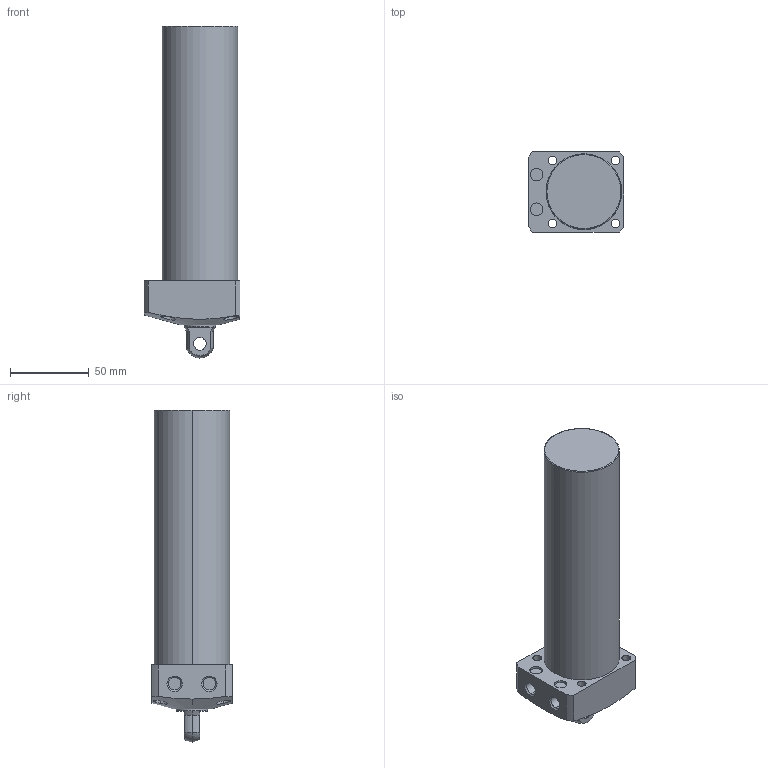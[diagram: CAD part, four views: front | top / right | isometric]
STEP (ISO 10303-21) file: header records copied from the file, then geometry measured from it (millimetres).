
FILE_DESCRIPTION (( 'STEP AP203' ), '1' );
FILE_NAME ('CLL-048CP-135.STEP', '2019-12-21T07:01:51', ( '' ), ( '' ), 'SwSTEP 2.0', 'SolidWorks 2015', '' );
FILE_SCHEMA (( 'CONFIG_CONTROL_DESIGN' ));
Length unit declared in the file: millimetre
Products named in the file (1): CLL-048CP-135
Bounding box: 61 x 51 x 211 mm (x, y, z)
Volume: 368486.2 mm3; surface area: 39248.5 mm2
Topology: 1 solids, 1 shells, 68 faces, 159 edges, 103 vertices
Faces by surface type: cylinder 35, plane 21, cone 8, sphere 2, torus 2
Entity records: 2390 total; most frequent: CARTESIAN_POINT 693, DIRECTION 357, ORIENTED_EDGE 318, EDGE_CURVE 159, AXIS2_PLACEMENT_3D 149, VERTEX_POINT 103, EDGE_LOOP 88, CIRCLE 80
